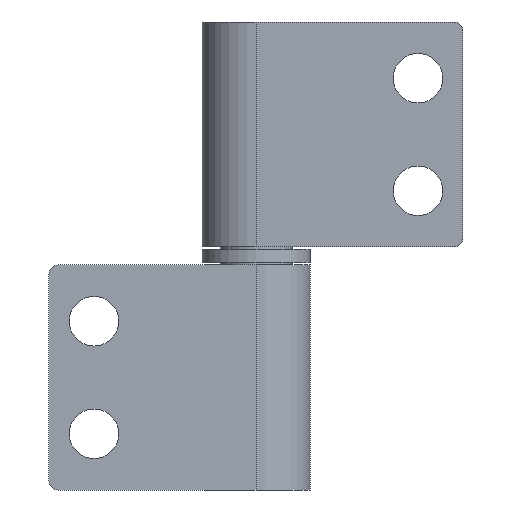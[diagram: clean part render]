
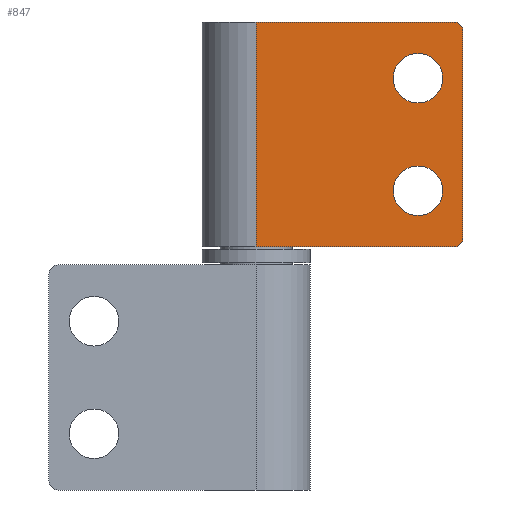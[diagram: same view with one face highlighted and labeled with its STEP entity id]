
A CAD part, front view. The second image highlights one B-rep face of the part: STEP entity #847.
In plain terms, the highlighted planar face has unit normal (0, -1, 0).
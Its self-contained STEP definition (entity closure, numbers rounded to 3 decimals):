
#34 = DIRECTION ( 'NONE',  ( 0., -1., 0. ) ) ;
#39 = CARTESIAN_POINT ( 'NONE',  ( 22., -6., 25. ) ) ;
#48 = CIRCLE ( 'NONE', #893, 2.75 ) ;
#88 = CARTESIAN_POINT ( 'NONE',  ( 18., -6., 18.75 ) ) ;
#93 = VERTEX_POINT ( 'NONE', #970 ) ;
#97 = DIRECTION ( 'NONE',  ( 0., -1., 0. ) ) ;
#101 = DIRECTION ( 'NONE',  ( 0., 0., -1. ) ) ;
#108 = ORIENTED_EDGE ( 'NONE', *, *, #235, .T. ) ;
#122 = CARTESIAN_POINT ( 'NONE',  ( 22., -6., 24. ) ) ;
#130 = VERTEX_POINT ( 'NONE', #132 ) ;
#132 = CARTESIAN_POINT ( 'NONE',  ( 23., -6., 1. ) ) ;
#168 = DIRECTION ( 'NONE',  ( 0., -1., 0. ) ) ;
#180 = VECTOR ( 'NONE', #510, 1000. ) ;
#191 = CARTESIAN_POINT ( 'NONE',  ( 0., -6., 25. ) ) ;
#196 = LINE ( 'NONE', #191, #180 ) ;
#216 = AXIS2_PLACEMENT_3D ( 'NONE', #122, #34, #728 ) ;
#232 = DIRECTION ( 'NONE',  ( -1., 0., 0. ) ) ;
#235 = EDGE_CURVE ( 'NONE', #745, #545, #785, .T. ) ;
#256 = VERTEX_POINT ( 'NONE', #698 ) ;
#298 = AXIS2_PLACEMENT_3D ( 'NONE', #1091, #978, #1098 ) ;
#306 = DIRECTION ( 'NONE',  ( 0., 0., -1. ) ) ;
#325 = VERTEX_POINT ( 'NONE', #982 ) ;
#337 = EDGE_CURVE ( 'NONE', #256, #909, #848, .T. ) ;
#348 = DIRECTION ( 'NONE',  ( 0., 1., 0. ) ) ;
#365 = AXIS2_PLACEMENT_3D ( 'NONE', #625, #474, #507 ) ;
#373 = EDGE_LOOP ( 'NONE', ( #594, #572 ) ) ;
#382 = EDGE_CURVE ( 'NONE', #325, #256, #604, .T. ) ;
#404 = EDGE_CURVE ( 'NONE', #745, #130, #969, .T. ) ;
#414 = AXIS2_PLACEMENT_3D ( 'NONE', #441, #437, #232 ) ;
#426 = VECTOR ( 'NONE', #491, 1000. ) ;
#432 = CARTESIAN_POINT ( 'NONE',  ( 18., -6., 16. ) ) ;
#433 = CARTESIAN_POINT ( 'NONE',  ( 0., -6., 25. ) ) ;
#437 = DIRECTION ( 'NONE',  ( 0., -1., 0. ) ) ;
#441 = CARTESIAN_POINT ( 'NONE',  ( 22., -6., 1. ) ) ;
#443 = ORIENTED_EDGE ( 'NONE', *, *, #1083, .F. ) ;
#445 = CIRCLE ( 'NONE', #414, 1. ) ;
#460 = VERTEX_POINT ( 'NONE', #432 ) ;
#470 = CIRCLE ( 'NONE', #298, 2.75 ) ;
#474 = DIRECTION ( 'NONE',  ( 0., -1., 0. ) ) ;
#491 = DIRECTION ( 'NONE',  ( 0., 0., -1. ) ) ;
#497 = FACE_OUTER_BOUND ( 'NONE', #897, .T. ) ;
#501 = ORIENTED_EDGE ( 'NONE', *, *, #985, .T. ) ;
#507 = DIRECTION ( 'NONE',  ( 0., 0., -1. ) ) ;
#510 = DIRECTION ( 'NONE',  ( 1., 0., 0. ) ) ;
#520 = PLANE ( 'NONE',  #681 ) ;
#523 = DIRECTION ( 'NONE',  ( -1., 0., 0. ) ) ;
#528 = ORIENTED_EDGE ( 'NONE', *, *, #337, .T. ) ;
#545 = VERTEX_POINT ( 'NONE', #39 ) ;
#556 = CARTESIAN_POINT ( 'NONE',  ( 22., -6., 0. ) ) ;
#570 = CARTESIAN_POINT ( 'NONE',  ( 23., -6., 25. ) ) ;
#572 = ORIENTED_EDGE ( 'NONE', *, *, #1109, .F. ) ;
#579 = CIRCLE ( 'NONE', #1001, 2.75 ) ;
#594 = ORIENTED_EDGE ( 'NONE', *, *, #960, .F. ) ;
#604 = LINE ( 'NONE', #859, #995 ) ;
#625 = CARTESIAN_POINT ( 'NONE',  ( 18., -6., 6.25 ) ) ;
#626 = EDGE_LOOP ( 'NONE', ( #700, #649 ) ) ;
#649 = ORIENTED_EDGE ( 'NONE', *, *, #718, .F. ) ;
#678 = CARTESIAN_POINT ( 'NONE',  ( 18., -6., 21.5 ) ) ;
#681 = AXIS2_PLACEMENT_3D ( 'NONE', #433, #348, #523 ) ;
#698 = CARTESIAN_POINT ( 'NONE',  ( 0., -6., 0. ) ) ;
#700 = ORIENTED_EDGE ( 'NONE', *, *, #961, .F. ) ;
#718 = EDGE_CURVE ( 'NONE', #958, #93, #579, .T. ) ;
#719 = ORIENTED_EDGE ( 'NONE', *, *, #382, .T. ) ;
#722 = CIRCLE ( 'NONE', #365, 2.75 ) ;
#728 = DIRECTION ( 'NONE',  ( -1., 0., 0. ) ) ;
#745 = VERTEX_POINT ( 'NONE', #1033 ) ;
#785 = CIRCLE ( 'NONE', #216, 1. ) ;
#788 = DIRECTION ( 'NONE',  ( 0., 0., -1. ) ) ;
#807 = FACE_BOUND ( 'NONE', #626, .T. ) ;
#812 = DIRECTION ( 'NONE',  ( 1., 0., 0. ) ) ;
#817 = CARTESIAN_POINT ( 'NONE',  ( 0., -6., 0. ) ) ;
#847 = ADVANCED_FACE ( 'NONE', ( #807, #1014, #497 ), #520, .F. ) ;
#848 = LINE ( 'NONE', #817, #878 ) ;
#859 = CARTESIAN_POINT ( 'NONE',  ( 0., -6., 25. ) ) ;
#864 = VERTEX_POINT ( 'NONE', #678 ) ;
#878 = VECTOR ( 'NONE', #812, 1000. ) ;
#893 = AXIS2_PLACEMENT_3D ( 'NONE', #88, #97, #101 ) ;
#897 = EDGE_LOOP ( 'NONE', ( #528, #501, #1064, #108, #443, #719 ) ) ;
#909 = VERTEX_POINT ( 'NONE', #556 ) ;
#948 = CARTESIAN_POINT ( 'NONE',  ( 18., -6., 9. ) ) ;
#958 = VERTEX_POINT ( 'NONE', #948 ) ;
#960 = EDGE_CURVE ( 'NONE', #460, #864, #470, .T. ) ;
#961 = EDGE_CURVE ( 'NONE', #93, #958, #722, .T. ) ;
#969 = LINE ( 'NONE', #570, #426 ) ;
#970 = CARTESIAN_POINT ( 'NONE',  ( 18., -6., 3.5 ) ) ;
#978 = DIRECTION ( 'NONE',  ( 0., -1., 0. ) ) ;
#982 = CARTESIAN_POINT ( 'NONE',  ( 0., -6., 25. ) ) ;
#985 = EDGE_CURVE ( 'NONE', #909, #130, #445, .T. ) ;
#995 = VECTOR ( 'NONE', #306, 1000. ) ;
#1001 = AXIS2_PLACEMENT_3D ( 'NONE', #1113, #168, #788 ) ;
#1014 = FACE_BOUND ( 'NONE', #373, .T. ) ;
#1033 = CARTESIAN_POINT ( 'NONE',  ( 23., -6., 24. ) ) ;
#1064 = ORIENTED_EDGE ( 'NONE', *, *, #404, .F. ) ;
#1083 = EDGE_CURVE ( 'NONE', #325, #545, #196, .T. ) ;
#1091 = CARTESIAN_POINT ( 'NONE',  ( 18., -6., 18.75 ) ) ;
#1098 = DIRECTION ( 'NONE',  ( 0., 0., -1. ) ) ;
#1109 = EDGE_CURVE ( 'NONE', #864, #460, #48, .T. ) ;
#1113 = CARTESIAN_POINT ( 'NONE',  ( 18., -6., 6.25 ) ) ;
